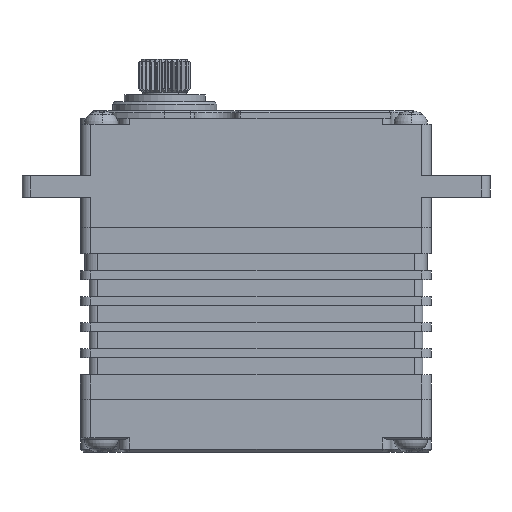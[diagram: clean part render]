
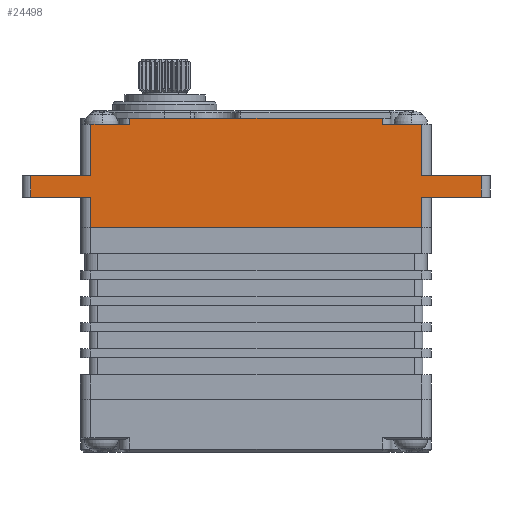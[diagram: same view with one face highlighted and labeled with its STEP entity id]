
A CAD part, front view. The second image highlights one B-rep face of the part: STEP entity #24498.
In plain terms, the highlighted planar face has unit normal (0, -1, 0).
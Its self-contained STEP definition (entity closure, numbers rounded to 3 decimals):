
#20 = VECTOR ( 'NONE', #6492, 1000. ) ;
#125 = CARTESIAN_POINT ( 'NONE',  ( -50.761, -23.052, 13.275 ) ) ;
#284 = LINE ( 'NONE', #5678, #591 ) ;
#433 = ORIENTED_EDGE ( 'NONE', *, *, #8355, .F. ) ;
#452 = EDGE_CURVE ( 'NONE', #5553, #13801, #16174, .T. ) ;
#591 = VECTOR ( 'NONE', #26365, 1000. ) ;
#1057 = ORIENTED_EDGE ( 'NONE', *, *, #11559, .F. ) ;
#1182 = DIRECTION ( 'NONE',  ( -1., 0., 0. ) ) ;
#1209 = EDGE_CURVE ( 'NONE', #16410, #4987, #4737, .T. ) ;
#1815 = LINE ( 'NONE', #17163, #14861 ) ;
#2126 = VERTEX_POINT ( 'NONE', #10344 ) ;
#2204 = ORIENTED_EDGE ( 'NONE', *, *, #26412, .F. ) ;
#2373 = VERTEX_POINT ( 'NONE', #13472 ) ;
#2471 = LINE ( 'NONE', #6278, #14572 ) ;
#2587 = EDGE_CURVE ( 'NONE', #13882, #16410, #1815, .T. ) ;
#2693 = CARTESIAN_POINT ( 'NONE',  ( -46.261, -23.052, 19.875 ) ) ;
#3133 = ORIENTED_EDGE ( 'NONE', *, *, #17851, .F. ) ;
#3222 = CARTESIAN_POINT ( 'NONE',  ( -5.711, -23.052, 6.875 ) ) ;
#3229 = VECTOR ( 'NONE', #23711, 1000. ) ;
#3532 = CARTESIAN_POINT ( 'NONE',  ( -57.711, -23.052, 13.275 ) ) ;
#3580 = VECTOR ( 'NONE', #25183, 1000. ) ;
#3594 = EDGE_CURVE ( 'NONE', #5182, #2373, #13629, .T. ) ;
#3860 = LINE ( 'NONE', #19405, #3229 ) ;
#3947 = ORIENTED_EDGE ( 'NONE', *, *, #13392, .F. ) ;
#4071 = CARTESIAN_POINT ( 'NONE',  ( -11.461, -23.052, 13.275 ) ) ;
#4104 = VECTOR ( 'NONE', #16600, 1000. ) ;
#4143 = CARTESIAN_POINT ( 'NONE',  ( -12.661, -23.052, 6.875 ) ) ;
#4338 = CARTESIAN_POINT ( 'NONE',  ( -11.461, -23.052, 19.175 ) ) ;
#4387 = ORIENTED_EDGE ( 'NONE', *, *, #10994, .F. ) ;
#4463 = CARTESIAN_POINT ( 'NONE',  ( -17.161, -23.052, 19.875 ) ) ;
#4724 = VERTEX_POINT ( 'NONE', #125 ) ;
#4737 = LINE ( 'NONE', #4143, #12979 ) ;
#4987 = VERTEX_POINT ( 'NONE', #10145 ) ;
#4995 = DIRECTION ( 'NONE',  ( -1., 0., 0. ) ) ;
#5080 = CARTESIAN_POINT ( 'NONE',  ( -11.461, -23.052, 6.875 ) ) ;
#5182 = VERTEX_POINT ( 'NONE', #14820 ) ;
#5553 = VERTEX_POINT ( 'NONE', #8346 ) ;
#5671 = VECTOR ( 'NONE', #6766, 1000. ) ;
#5678 = CARTESIAN_POINT ( 'NONE',  ( -11.461, -23.052, 19.875 ) ) ;
#5708 = VECTOR ( 'NONE', #1182, 1000. ) ;
#6258 = ORIENTED_EDGE ( 'NONE', *, *, #23890, .F. ) ;
#6278 = CARTESIAN_POINT ( 'NONE',  ( -50.761, -23.052, 6.875 ) ) ;
#6492 = DIRECTION ( 'NONE',  ( 0., 0., -1. ) ) ;
#6766 = DIRECTION ( 'NONE',  ( 0., 0., 1. ) ) ;
#6908 = EDGE_LOOP ( 'NONE', ( #12969, #1057, #3133, #7928, #18072, #22106, #433, #4387, #10638, #2204, #19557, #22626, #22403, #6258, #7859, #3947 ) ) ;
#6941 = CARTESIAN_POINT ( 'NONE',  ( -57.711, -23.052, 6.875 ) ) ;
#7095 = DIRECTION ( 'NONE',  ( -1., 0., 0. ) ) ;
#7859 = ORIENTED_EDGE ( 'NONE', *, *, #22666, .F. ) ;
#7928 = ORIENTED_EDGE ( 'NONE', *, *, #1209, .F. ) ;
#8346 = CARTESIAN_POINT ( 'NONE',  ( -50.761, -23.052, 10.775 ) ) ;
#8355 = EDGE_CURVE ( 'NONE', #18167, #2126, #3860, .T. ) ;
#8418 = AXIS2_PLACEMENT_3D ( 'NONE', #5080, #25394, #7095 ) ;
#8757 = LINE ( 'NONE', #4071, #23743 ) ;
#8995 = EDGE_CURVE ( 'NONE', #19761, #11971, #284, .T. ) ;
#9414 = DIRECTION ( 'NONE',  ( 0., 0., -1. ) ) ;
#10145 = CARTESIAN_POINT ( 'NONE',  ( -12.661, -23.052, 7.275 ) ) ;
#10344 = CARTESIAN_POINT ( 'NONE',  ( -5.711, -23.052, 13.275 ) ) ;
#10398 = CARTESIAN_POINT ( 'NONE',  ( -12.661, -23.052, 10.775 ) ) ;
#10473 = VECTOR ( 'NONE', #15913, 1000. ) ;
#10638 = ORIENTED_EDGE ( 'NONE', *, *, #11545, .F. ) ;
#10994 = EDGE_CURVE ( 'NONE', #23209, #18167, #12733, .T. ) ;
#11274 = CARTESIAN_POINT ( 'NONE',  ( -11.461, -23.052, 10.775 ) ) ;
#11545 = EDGE_CURVE ( 'NONE', #24174, #23209, #21883, .T. ) ;
#11559 = EDGE_CURVE ( 'NONE', #26181, #5553, #2471, .T. ) ;
#11724 = VECTOR ( 'NONE', #16014, 1000. ) ;
#11971 = VERTEX_POINT ( 'NONE', #4463 ) ;
#12242 = LINE ( 'NONE', #3222, #13195 ) ;
#12378 = LINE ( 'NONE', #25555, #11724 ) ;
#12469 = LINE ( 'NONE', #12903, #15043 ) ;
#12479 = CARTESIAN_POINT ( 'NONE',  ( -12.661, -23.052, 19.175 ) ) ;
#12733 = LINE ( 'NONE', #24215, #10473 ) ;
#12903 = CARTESIAN_POINT ( 'NONE',  ( -46.261, -23.052, 6.875 ) ) ;
#12969 = ORIENTED_EDGE ( 'NONE', *, *, #452, .F. ) ;
#12979 = VECTOR ( 'NONE', #20471, 1000. ) ;
#12986 = CARTESIAN_POINT ( 'NONE',  ( -12.661, -23.052, 13.275 ) ) ;
#13195 = VECTOR ( 'NONE', #9414, 1000. ) ;
#13392 = EDGE_CURVE ( 'NONE', #13801, #17864, #16127, .T. ) ;
#13472 = CARTESIAN_POINT ( 'NONE',  ( -46.261, -23.052, 19.175 ) ) ;
#13629 = LINE ( 'NONE', #4338, #4104 ) ;
#13801 = VERTEX_POINT ( 'NONE', #20864 ) ;
#13882 = VERTEX_POINT ( 'NONE', #15535 ) ;
#14572 = VECTOR ( 'NONE', #24822, 1000. ) ;
#14820 = CARTESIAN_POINT ( 'NONE',  ( -50.761, -23.052, 19.175 ) ) ;
#14861 = VECTOR ( 'NONE', #4995, 1000. ) ;
#15043 = VECTOR ( 'NONE', #24989, 1000. ) ;
#15535 = CARTESIAN_POINT ( 'NONE',  ( -5.711, -23.052, 10.775 ) ) ;
#15913 = DIRECTION ( 'NONE',  ( 0., 0., -1. ) ) ;
#16014 = DIRECTION ( 'NONE',  ( -1., 0., 0. ) ) ;
#16121 = CARTESIAN_POINT ( 'NONE',  ( -11.461, -23.052, 19.175 ) ) ;
#16127 = LINE ( 'NONE', #6941, #5671 ) ;
#16174 = LINE ( 'NONE', #11274, #5708 ) ;
#16410 = VERTEX_POINT ( 'NONE', #10398 ) ;
#16600 = DIRECTION ( 'NONE',  ( 1., 0., 0. ) ) ;
#17090 = VECTOR ( 'NONE', #24451, 1000. ) ;
#17163 = CARTESIAN_POINT ( 'NONE',  ( -11.461, -23.052, 10.775 ) ) ;
#17232 = PLANE ( 'NONE',  #8418 ) ;
#17851 = EDGE_CURVE ( 'NONE', #4987, #26181, #12378, .T. ) ;
#17864 = VERTEX_POINT ( 'NONE', #3532 ) ;
#18072 = ORIENTED_EDGE ( 'NONE', *, *, #2587, .F. ) ;
#18167 = VERTEX_POINT ( 'NONE', #12986 ) ;
#18385 = EDGE_CURVE ( 'NONE', #2126, #13882, #12242, .T. ) ;
#18844 = CARTESIAN_POINT ( 'NONE',  ( -17.161, -23.052, 24.675 ) ) ;
#19405 = CARTESIAN_POINT ( 'NONE',  ( -11.461, -23.052, 13.275 ) ) ;
#19557 = ORIENTED_EDGE ( 'NONE', *, *, #8995, .F. ) ;
#19761 = VERTEX_POINT ( 'NONE', #2693 ) ;
#20471 = DIRECTION ( 'NONE',  ( 0., 0., -1. ) ) ;
#20864 = CARTESIAN_POINT ( 'NONE',  ( -57.711, -23.052, 10.775 ) ) ;
#21645 = CARTESIAN_POINT ( 'NONE',  ( -50.761, -23.052, 7.275 ) ) ;
#21883 = LINE ( 'NONE', #16121, #17090 ) ;
#22106 = ORIENTED_EDGE ( 'NONE', *, *, #18385, .F. ) ;
#22403 = ORIENTED_EDGE ( 'NONE', *, *, #3594, .F. ) ;
#22626 = ORIENTED_EDGE ( 'NONE', *, *, #23906, .F. ) ;
#22656 = LINE ( 'NONE', #18844, #20 ) ;
#22666 = EDGE_CURVE ( 'NONE', #17864, #4724, #8757, .T. ) ;
#23209 = VERTEX_POINT ( 'NONE', #12479 ) ;
#23711 = DIRECTION ( 'NONE',  ( 1., 0., 0. ) ) ;
#23743 = VECTOR ( 'NONE', #24837, 1000. ) ;
#23781 = CARTESIAN_POINT ( 'NONE',  ( -17.161, -23.052, 19.175 ) ) ;
#23890 = EDGE_CURVE ( 'NONE', #4724, #5182, #25582, .T. ) ;
#23906 = EDGE_CURVE ( 'NONE', #2373, #19761, #12469, .T. ) ;
#24174 = VERTEX_POINT ( 'NONE', #23781 ) ;
#24215 = CARTESIAN_POINT ( 'NONE',  ( -12.661, -23.052, 6.875 ) ) ;
#24451 = DIRECTION ( 'NONE',  ( 1., 0., 0. ) ) ;
#24498 = ADVANCED_FACE ( 'NONE', ( #26390 ), #17232, .F. ) ;
#24822 = DIRECTION ( 'NONE',  ( 0., 0., 1. ) ) ;
#24837 = DIRECTION ( 'NONE',  ( 1., 0., 0. ) ) ;
#24989 = DIRECTION ( 'NONE',  ( 0., 0., 1. ) ) ;
#25076 = CARTESIAN_POINT ( 'NONE',  ( -50.761, -23.052, 6.875 ) ) ;
#25183 = DIRECTION ( 'NONE',  ( 0., 0., 1. ) ) ;
#25394 = DIRECTION ( 'NONE',  ( 0., 1., 0. ) ) ;
#25555 = CARTESIAN_POINT ( 'NONE',  ( -33.308, -23.052, 7.275 ) ) ;
#25582 = LINE ( 'NONE', #25076, #3580 ) ;
#26181 = VERTEX_POINT ( 'NONE', #21645 ) ;
#26365 = DIRECTION ( 'NONE',  ( 1., 0., 0. ) ) ;
#26390 = FACE_OUTER_BOUND ( 'NONE', #6908, .T. ) ;
#26412 = EDGE_CURVE ( 'NONE', #11971, #24174, #22656, .T. ) ;
